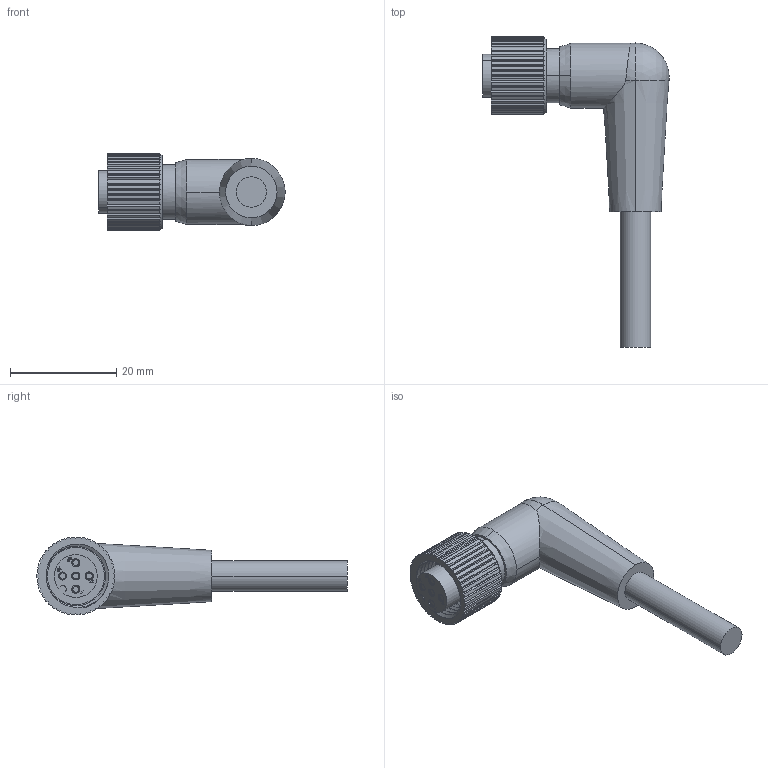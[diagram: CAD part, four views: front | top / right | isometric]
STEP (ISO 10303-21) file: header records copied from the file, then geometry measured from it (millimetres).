
FILE_DESCRIPTION (( 'STEP AP214' ), '1' );
FILE_NAME ('MDC-5FP-ZZ-R.STEP', '2011-04-03T16:29:46', ( 'Bruce' ), ( 'HP' ), 'SwSTEP 2.0', 'SolidWorks 2011', '' );
FILE_SCHEMA (( 'AUTOMOTIVE_DESIGN' ));
Length unit declared in the file: millimetre
Products named in the file (1): MDC-5FP-ZZ-R
Bounding box: 35.01 x 58.31 x 14.65 mm (x, y, z)
Volume: 6304.6 mm3; surface area: 3641.8 mm2
Topology: 1 solids, 1 shells, 293 faces, 841 edges, 559 vertices
Faces by surface type: plane 153, cylinder 107, bspline 23, cone 8, sphere 2
Entity records: 15062 total; most frequent: CARTESIAN_POINT 4441, ORIENTED_EDGE 1678, DIRECTION 1416, EDGE_CURVE 839, VERTEX_POINT 558, AXIS2_PLACEMENT_3D 493, LINE 430, VECTOR 430
